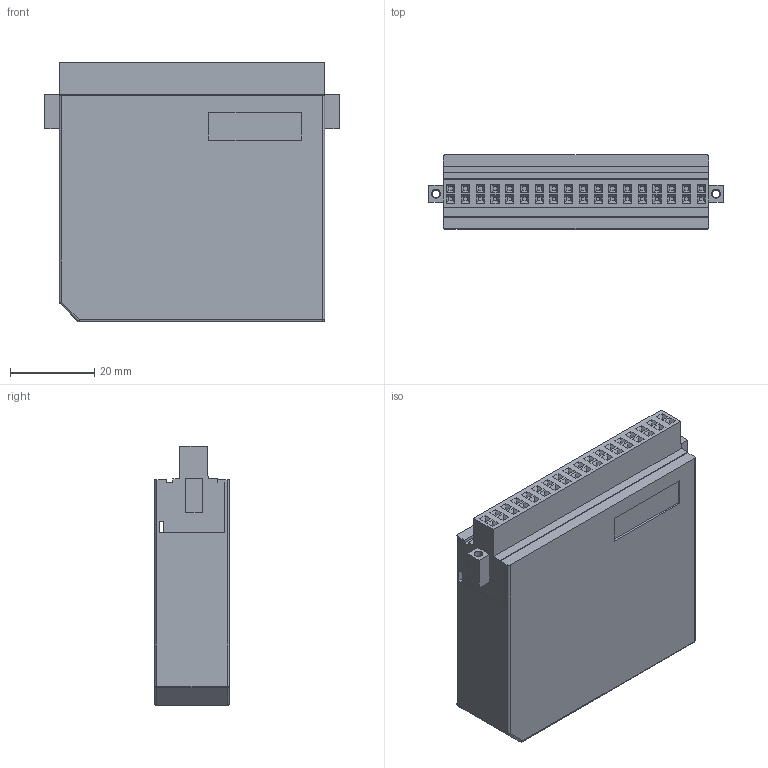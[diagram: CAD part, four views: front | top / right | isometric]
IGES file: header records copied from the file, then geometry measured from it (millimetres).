
Start section:  PTC IGES file: conn_crio_36_pos_weid_tb.igs
Global section: file name: conn_crio_36_pos_weid_tb.igs; native system: Pro/ENGINEER by Parametric Technology Corporation; preprocessor: 2006080; author: chrisj; organization: Unknown; date: 070125.120345; units: inch
Bounding box: 70 x 17.65 x 61.75 mm (x, y, z)
Surface area: 23653.7 mm2 (no closed solid volume)
Topology: 0 solids, 0 shells, 889 faces, 3998 edges, 3998 vertices
Faces by surface type: bspline 644, revolution 245
